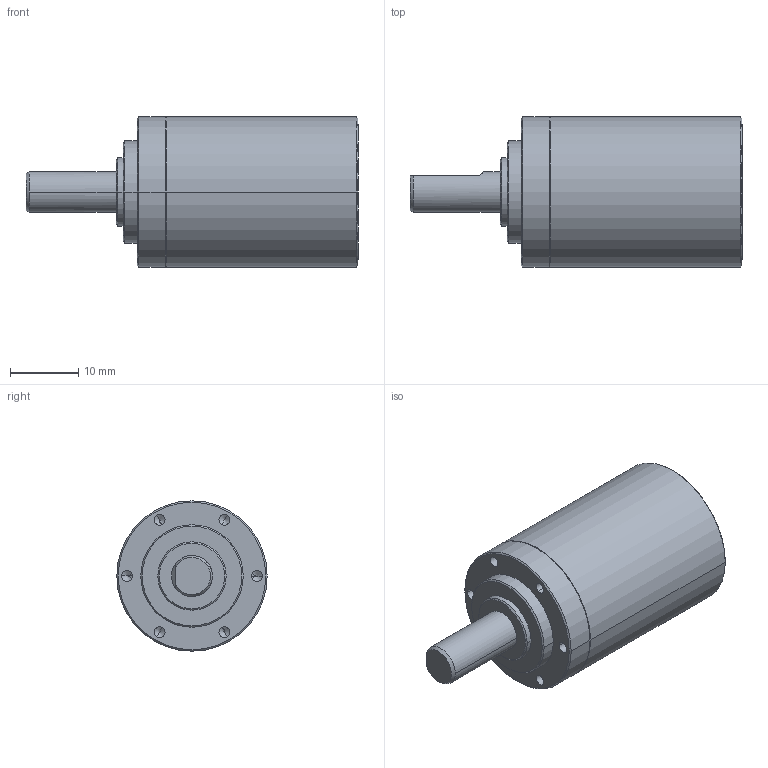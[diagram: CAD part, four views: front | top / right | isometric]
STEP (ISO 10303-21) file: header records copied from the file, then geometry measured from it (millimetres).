
FILE_DESCRIPTION((''),'2;1');
FILE_NAME('1043870','2016-10-04T',('mmagvisi'),(''),'CREO PARAMETRIC BY PTC INC, 2016050','CREO PARAMETRIC BY PTC INC, 2016050','');
FILE_SCHEMA(('CONFIG_CONTROL_DESIGN'));
Length unit declared in the file: millimetre
Products named in the file (1): 1043870
Bounding box: 48.6 x 22 x 22 mm (x, y, z)
Volume: 12282.2 mm3; surface area: 3610.7 mm2
Topology: 1 solids, 1 shells, 59 faces, 131 edges, 72 vertices
Faces by surface type: cone 27, cylinder 24, plane 8
Entity records: 1650 total; most frequent: DIRECTION 294, CARTESIAN_POINT 266, ORIENTED_EDGE 238, AXIS2_PLACEMENT_3D 120, EDGE_CURVE 119, VERTEX_POINT 72, EDGE_LOOP 69, CIRCLE 61
